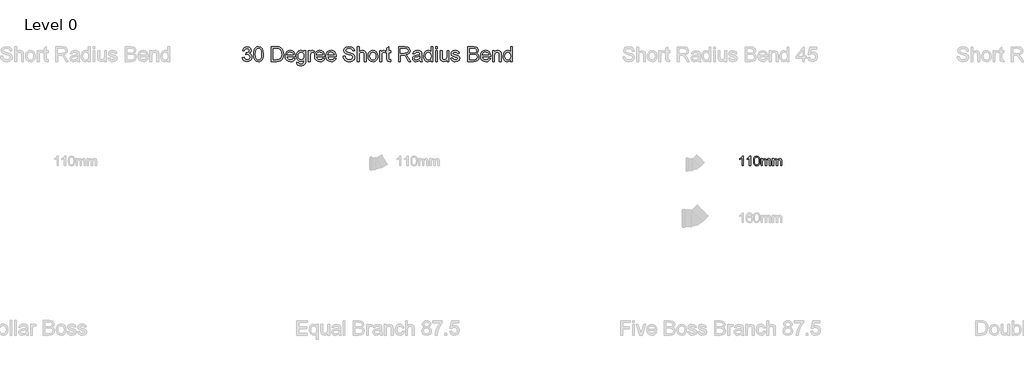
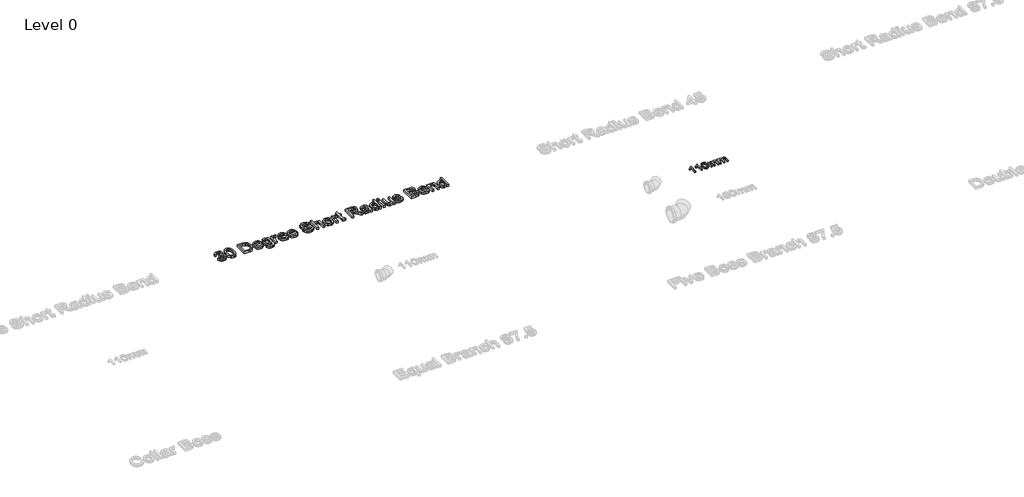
# One storey, part 12 of 15: 2 proxies.
"""IFC4 building model written with IfcOpenShell, lengths in millimetres."""

from ifc_helpers import new_model, si_unit, origin, origin_with_axes, place, context, project, spatial, polyline, outline, extrude, element, save

model = new_model("IFC4")

# Units and contexts
model_context = context("Model", 3, world=origin())
ifc_project = project(units=[si_unit("LENGTHUNIT", "METRE", prefix="MILLI")], contexts=[model_context])

# Site, building, storey
site = spatial("IfcSite", under=ifc_project)
building = spatial("IfcBuilding", under=site)
storey = spatial("IfcBuildingStorey", under=building, Name="Level 0", Elevation=0.0)

# Proxies
placement = place(None, origin())
element("IfcBuildingElementProxy", 1, Name="100mm Arial", ObjectType="100mm Arial", at=placement, inside=storey, context=model_context, shape_type="SweptSolid", body=[
    extrude(outline(polyline([(-6791.7293188, 8237.7167304), (-6804.0370111, 8237.7167304), (-6804.0370111, 8314.4474996), (-6815.6956649, 8306.1422111), (-6828.6523957, 8299.9282688), (-6828.6523957, 8311.5628842), (-6810.6115303, 8323.0773073), (-6799.6620111, 8336.1782688), (-6791.7293188, 8336.1782688), (-6791.7293188, 8237.7167304)])), origin_with_axes(), (0.0, 0.0, 1.0), 15.0),
    extrude(outline(polyline([(-6716.3447034, 8237.7167304), (-6728.6523957, 8237.7167304), (-6728.6523957, 8314.4474996), (-6740.3110495, 8306.1422111), (-6753.2677803, 8299.9282688), (-6753.2677803, 8311.5628842), (-6735.2269149, 8323.0773073), (-6724.2773957, 8336.1782688), (-6716.3447034, 8336.1782688), (-6716.3447034, 8237.7167304)])), origin_with_axes(), (0.0, 0.0, 1.0), 15.0),
    extrude(outline(polyline([(-6687.1139341, 8286.1542304), (-6683.4961457, 8314.4835573), (-6672.7509534, 8330.8176919), (-6654.8062418, 8336.1782688), (-6640.4312418, 8333.0051919), (-6630.5033572, 8323.8585573), (-6624.7341264, 8309.2912496), (-6622.4985495, 8286.1542304), (-6626.0802803, 8257.9450958), (-6636.7894149, 8241.5749035), (-6654.8062418, 8236.1782688), (-6667.5947034, 8238.5220188), (-6677.3062418, 8245.5532688), (-6684.6620111, 8262.2059131), (-6687.1139341, 8286.1542304)]), holes=[polyline([(-6674.8062418, 8286.1782688), (-6673.3639341, 8266.8182929), (-6669.0370111, 8255.613365), (-6662.5947034, 8250.2678121), (-6654.8062418, 8248.4859611), (-6647.0177803, 8250.2738217), (-6640.5754726, 8255.6374035), (-6636.2485495, 8266.848341), (-6634.8062418, 8286.1782688), (-6636.2004726, 8305.1025477), (-6640.3831649, 8316.394615), (-6646.8134534, 8322.0015861), (-6654.9504726, 8323.8705765), (-6662.6547995, 8322.2239419), (-6668.8447034, 8317.2840381), (-6673.3158572, 8305.2888458), (-6674.8062418, 8286.1782688)])]), origin_with_axes(), (0.0, 0.0, 1.0), 15.0),
    extrude(outline(polyline([(-6608.6523957, 8237.7167304), (-6608.6523957, 8310.0244227), (-6596.3447034, 8310.0244227), (-6596.3447034, 8298.1253842), (-6587.8831649, 8307.8729804), (-6575.8398957, 8311.5628842), (-6563.5081649, 8307.800865), (-6556.7293188, 8297.2599996), (-6547.1259534, 8307.9871631), (-6534.9985495, 8311.5628842), (-6525.7467466, 8310.0755044), (-6518.9047995, 8305.613365), (-6514.6770351, 8298.0562736), (-6513.2677803, 8287.2840381), (-6513.2677803, 8237.7167304), (-6525.5754726, 8237.7167304), (-6525.5754726, 8281.9955765), (-6526.7172995, 8292.2720188), (-6530.8519149, 8297.332115), (-6537.8831649, 8299.2551919), (-6549.9865303, 8294.3273073), (-6554.8062418, 8278.5340381), (-6554.8062418, 8237.7167304), (-6567.1139341, 8237.7167304), (-6567.1139341, 8283.3657688), (-6569.9624918, 8295.2888458), (-6579.3014341, 8299.2551919), (-6588.4120111, 8296.6109611), (-6594.4697034, 8288.8705765), (-6596.3447034, 8274.1830765), (-6596.3447034, 8237.7167304), (-6608.6523957, 8237.7167304)])), origin_with_axes(), (0.0, 0.0, 1.0), 15.0),
    extrude(outline(polyline([(-6494.8062418, 8237.7167304), (-6494.8062418, 8310.0244227), (-6482.4985495, 8310.0244227), (-6482.4985495, 8298.1253842), (-6474.0370111, 8307.8729804), (-6461.9937418, 8311.5628842), (-6449.6620111, 8307.800865), (-6442.8831649, 8297.2599996), (-6433.2797995, 8307.9871631), (-6421.1523957, 8311.5628842), (-6411.9005928, 8310.0755044), (-6405.0586457, 8305.613365), (-6400.8308813, 8298.0562736), (-6399.4216264, 8287.2840381), (-6399.4216264, 8237.7167304), (-6411.7293188, 8237.7167304), (-6411.7293188, 8281.9955765), (-6412.8711457, 8292.2720188), (-6417.0057611, 8297.332115), (-6424.0370111, 8299.2551919), (-6436.1403764, 8294.3273073), (-6440.960088, 8278.5340381), (-6440.960088, 8237.7167304), (-6453.2677803, 8237.7167304), (-6453.2677803, 8283.3657688), (-6456.116338, 8295.2888458), (-6465.4552803, 8299.2551919), (-6474.5658572, 8296.6109611), (-6480.6235495, 8288.8705765), (-6482.4985495, 8274.1830765), (-6482.4985495, 8237.7167304), (-6494.8062418, 8237.7167304)])), origin_with_axes(), (0.0, 0.0, 1.0), 15.0),
])
element("IfcBuildingElementProxy", 2, Name="150mm Arial", ObjectType="150mm Arial", at=placement, inside=storey, context=model_context, shape_type="SweptSolid", body=[
    extrude(outline(polyline([(-11911.1255307, 9345.240083), (-11892.2899725, 9347.5945278), (-11888.0731251, 9335.7579246), (-11881.8973062, 9327.7656882), (-11873.4590129, 9323.2131485), (-11862.4547427, 9321.6956353), (-11849.5420847, 9323.7833656), (-11839.5724826, 9330.0465566), (-11833.198927, 9339.3907593), (-11831.0744085, 9350.7215247), (-11833.1805329, 9361.4774746), (-11839.4989062, 9370.2008764), (-11849.0638381, 9375.9812222), (-11860.9096383, 9377.9080042), (-11874.116602, 9375.847865), (-11872.0196746, 9394.6834231), (-11869.0030422, 9394.4626939), (-11847.6290983, 9399.8705593), (-11840.5105817, 9406.7315585), (-11838.1377428, 9416.4988255), (-11839.8575912, 9424.6336161), (-11845.0171361, 9431.2324994), (-11852.8898108, 9435.6056966), (-11862.7490483, 9437.063429), (-11872.6266799, 9435.591901), (-11880.7016897, 9431.1773171), (-11886.5969986, 9423.8196772), (-11889.9355277, 9413.5189813), (-11908.7710859, 9415.8734261), (-11903.2252648, 9432.7868008), (-11893.3568303, 9445.4143503), (-11879.8555611, 9453.2778279), (-11863.4112359, 9455.8989871), (-11840.6945227, 9450.7302451), (-11824.8020205, 9436.6035765), (-11819.3021847, 9417.6024714), (-11824.526109, 9400.2384413), (-11839.9771528, 9387.7672416), (-11828.1865349, 9383.0031698), (-11819.4493375, 9374.8913718), (-11814.0414721, 9363.873306), (-11812.2388504, 9350.3904309), (-11815.8440939, 9332.0331194), (-11826.6598246, 9316.6924402), (-11842.9845881, 9306.3181679), (-11863.1169303, 9302.8600771), (-11881.3270891, 9305.8123302), (-11896.1527335, 9314.6690892), (-11906.4626264, 9328.2163437), (-11911.1255307, 9345.240083)])), origin_with_axes(), (0.0, 0.0, 1.0), 25.0),
    extrude(outline(polyline([(-11795.757737, 9379.3427439), (-11794.373581, 9403.4620073), (-11790.221113, 9422.6976371), (-11783.3417196, 9437.343939), (-11773.7767878, 9447.6952187), (-11761.4573395, 9453.848045), (-11746.3143968, 9455.8989871), (-11724.3150535, 9451.0429448), (-11709.1215271, 9437.0450349), (-11700.2923592, 9414.751386), (-11696.8710567, 9379.3427439), (-11698.2414171, 9355.3614364), (-11702.3524984, 9336.1717918), (-11709.190505, 9321.5116943), (-11718.7416413, 9311.1190279), (-11731.0886808, 9304.9248148), (-11746.3143968, 9302.8600771), (-11765.885719, 9306.4469266), (-11780.7481516, 9317.207475), (-11792.0053406, 9342.6925002), (-11795.757737, 9379.3427439)]), holes=[polyline([(-11776.9221788, 9379.3795321), (-11774.7148869, 9349.751236), (-11768.0930109, 9332.6033365), (-11758.2337735, 9324.4225606), (-11746.3143968, 9321.6956353), (-11734.3950202, 9324.4317576), (-11724.5357827, 9332.6401247), (-11717.9139068, 9349.7972212), (-11715.7066148, 9379.3795321), (-11717.8403304, 9408.3410422), (-11724.2414771, 9425.6222989), (-11734.0823205, 9434.2031465), (-11746.535126, 9437.063429), (-11758.325744, 9434.5434373), (-11767.7987053, 9426.9834623), (-11774.6413105, 9408.6261508), (-11776.9221788, 9379.3795321)])]), origin_with_axes(), (0.0, 0.0, 1.0), 25.0),
    extrude(outline(polyline([(-11614.4654898, 9305.2145219), (-11614.4654898, 9455.8989871), (-11562.4837638, 9455.8989871), (-11535.59159, 9453.7284834), (-11513.4450939, 9442.9495409), (-11503.0248364, 9431.4716227), (-11495.6028171, 9417.1978012), (-11491.160642, 9400.4039882), (-11489.679917, 9381.3660949), (-11493.6898307, 9350.960648), (-11503.9905266, 9329.016487), (-11517.7493132, 9315.3496709), (-11535.7571369, 9307.7896959), (-11559.9821663, 9305.2145219), (-11614.4654898, 9305.2145219)]), holes=[polyline([(-11595.6299316, 9324.0500801), (-11562.2998228, 9324.0500801), (-11538.0563994, 9326.7724068), (-11524.0768835, 9334.4611405), (-11512.6173594, 9353.16794), (-11508.5154751, 9381.6604005), (-11510.5250305, 9402.1882158), (-11516.5536967, 9417.344954), (-11525.4610396, 9427.7560145), (-11536.1066248, 9434.0467966), (-11562.8148576, 9437.063429), (-11595.6299316, 9437.063429), (-11595.6299316, 9324.0500801)])]), origin_with_axes(), (0.0, 0.0, 1.0), 25.0),
    extrude(outline(polyline([(-11388.6595211, 9338.1767487), (-11370.191845, 9335.8223039), (-11376.8459105, 9321.9071674), (-11387.4639046, 9311.505304), (-11401.8067039, 9305.0213839), (-11419.6351851, 9302.8600771), (-11441.735696, 9306.5894809), (-11458.7410412, 9317.7776921), (-11469.584363, 9335.6981437), (-11473.1988036, 9359.624269), (-11469.5475748, 9384.3551361), (-11458.5938884, 9402.8504034), (-11441.8184694, 9414.383504), (-11420.7020429, 9418.2278708), (-11400.2432054, 9414.392701), (-11383.8954493, 9402.8871916), (-11373.1762876, 9384.4287125), (-11369.6032338, 9359.7346336), (-11369.7135984, 9354.6578621), (-11454.3632455, 9354.6578621), (-11451.1028913, 9340.5587846), (-11443.5291207, 9330.1937094), (-11432.5984269, 9323.8201538), (-11419.2673031, 9321.6956353), (-11400.799627, 9325.6319727), (-11388.6595211, 9338.1767487)]), holes=[polyline([(-11454.3632455, 9373.4934202), (-11388.4387919, 9373.4934202), (-11390.9863747, 9383.4446282), (-11395.9803728, 9390.5631448), (-11406.9616504, 9397.1850207), (-11420.7756193, 9399.3923127), (-11433.4721467, 9397.6310776), (-11443.9705791, 9392.3473725), (-11451.2684382, 9384.1114143), (-11454.3632455, 9373.4934202)])]), origin_with_axes(), (0.0, 0.0, 1.0), 25.0),
    extrude(outline(polyline([(-11355.4765652, 9295.7967428), (-11336.641007, 9293.4422981), (-11330.5341659, 9283.5094842), (-11312.2504307, 9279.3156295), (-11292.9734142, 9284.0613072), (-11283.7763643, 9297.3786354), (-11282.4887773, 9319.3411905), (-11295.7509232, 9308.7461891), (-11311.9193369, 9305.2145219), (-11331.3389077, 9309.3256032), (-11345.8196628, 9321.6588471), (-11354.8281731, 9339.7402472), (-11357.8310099, 9361.095797), (-11352.4415387, 9390.2872333), (-11345.8472539, 9402.1376321), (-11336.8433421, 9410.9438073), (-11325.7379044, 9416.406855), (-11312.8390419, 9418.2278708), (-11296.0360318, 9414.1075925), (-11282.4887773, 9401.7467575), (-11282.4887773, 9415.8734261), (-11263.6532192, 9415.8734261), (-11263.6532192, 9320.3344719), (-11264.9408061, 9298.2753478), (-11268.8035671, 9283.7486075), (-11275.4576327, 9274.1146978), (-11285.1191336, 9266.7340652), (-11297.5765376, 9262.0435698), (-11312.6183127, 9260.4800713), (-11330.1432913, 9262.6827648), (-11343.9434646, 9269.2908451), (-11352.7956251, 9280.3227064), (-11355.4765652, 9295.7967428)]), holes=[polyline([(-11338.9954518, 9362.383384), (-11336.9858964, 9345.1067258), (-11330.9572302, 9333.2287359), (-11321.8935375, 9326.344744), (-11310.7789027, 9324.0500801), (-11299.7470414, 9326.3309484), (-11290.6373635, 9333.1735536), (-11284.5259239, 9344.8997921), (-11282.4887773, 9361.831561), (-11284.5857047, 9378.160923), (-11290.8764868, 9389.9193513), (-11300.1195219, 9397.0240723), (-11311.0732083, 9399.3923127), (-11321.8291582, 9397.0608605), (-11330.8468656, 9390.0665041), (-11336.9583052, 9378.4828198), (-11338.9954518, 9362.383384)])]), origin_with_axes(), (0.0, 0.0, 1.0), 25.0),
    extrude(outline(polyline([(-11235.3998819, 9305.2145219), (-11235.3998819, 9415.8734261), (-11218.9187685, 9415.8734261), (-11218.9187685, 9399.5026773), (-11207.2201211, 9414.5858391), (-11195.4478973, 9418.2278708), (-11176.5387627, 9412.4153353), (-11182.8295448, 9395.5295517), (-11196.0732966, 9399.3923127), (-11206.7234804, 9395.6767045), (-11213.5109032, 9385.3760087), (-11216.5643238, 9363.3766654), (-11216.5643238, 9305.2145219), (-11235.3998819, 9305.2145219)])), origin_with_axes(), (0.0, 0.0, 1.0), 25.0),
    extrude(outline(polyline([(-11087.2905907, 9338.1767487), (-11068.8229145, 9335.8223039), (-11075.4769801, 9321.9071674), (-11086.0949742, 9311.505304), (-11100.4377735, 9305.0213839), (-11118.2662547, 9302.8600771), (-11140.3667655, 9306.5894809), (-11157.3721108, 9317.7776921), (-11168.2154326, 9335.6981437), (-11171.8298732, 9359.624269), (-11168.1786444, 9384.3551361), (-11157.224958, 9402.8504034), (-11140.449539, 9414.383504), (-11119.3331124, 9418.2278708), (-11098.874275, 9414.392701), (-11082.5265188, 9402.8871916), (-11071.8073572, 9384.4287125), (-11068.2343033, 9359.7346336), (-11068.3446679, 9354.6578621), (-11152.994315, 9354.6578621), (-11149.7339608, 9340.5587846), (-11142.1601903, 9330.1937094), (-11131.2294965, 9323.8201538), (-11117.8983727, 9321.6956353), (-11099.4306965, 9325.6319727), (-11087.2905907, 9338.1767487)]), holes=[polyline([(-11152.994315, 9373.4934202), (-11087.0698615, 9373.4934202), (-11089.6174443, 9383.4446282), (-11094.6114424, 9390.5631448), (-11105.5927199, 9397.1850207), (-11119.4066888, 9399.3923127), (-11132.1032162, 9397.6310776), (-11142.6016486, 9392.3473725), (-11149.8995077, 9384.1114143), (-11152.994315, 9373.4934202)])]), origin_with_axes(), (0.0, 0.0, 1.0), 25.0),
    extrude(outline(polyline([(-10971.922797, 9338.1767487), (-10953.4551208, 9335.8223039), (-10960.1091864, 9321.9071674), (-10970.7271805, 9311.505304), (-10985.0699798, 9305.0213839), (-11002.898461, 9302.8600771), (-11024.9989718, 9306.5894809), (-11042.0043171, 9317.7776921), (-11052.8476389, 9335.6981437), (-11056.4620795, 9359.624269), (-11052.8108507, 9384.3551361), (-11041.8571643, 9402.8504034), (-11025.0817453, 9414.383504), (-11003.9653188, 9418.2278708), (-10983.5064813, 9414.392701), (-10967.1587251, 9402.8871916), (-10956.4395635, 9384.4287125), (-10952.8665096, 9359.7346336), (-10952.9768742, 9354.6578621), (-11037.6265213, 9354.6578621), (-11034.3661671, 9340.5587846), (-11026.7923966, 9330.1937094), (-11015.8617028, 9323.8201538), (-11002.530579, 9321.6956353), (-10984.0629028, 9325.6319727), (-10971.922797, 9338.1767487)]), holes=[polyline([(-11037.6265213, 9373.4934202), (-10971.7020678, 9373.4934202), (-10974.2496506, 9383.4446282), (-10979.2436487, 9390.5631448), (-10990.2249262, 9397.1850207), (-11004.0388952, 9399.3923127), (-11016.7354225, 9397.6310776), (-11027.233855, 9392.3473725), (-11034.531714, 9384.1114143), (-11037.6265213, 9373.4934202)])]), origin_with_axes(), (0.0, 0.0, 1.0), 25.0),
    extrude(outline(polyline([(-10879.8787218, 9357.0123068), (-10861.0431636, 9357.0123068), (-10854.9731107, 9338.1583546), (-10840.1474663, 9326.2389779), (-10817.5595118, 9321.6956353), (-10797.8778251, 9325.135332), (-10785.1675021, 9334.5898992), (-10780.9920415, 9347.2266458), (-10784.1190384, 9358.9804755), (-10796.9213319, 9367.5337319), (-10824.3469346, 9374.7258249), (-10853.8694647, 9384.0148453), (-10869.8907256, 9398.0311493), (-10875.1698323, 9416.7563429), (-10873.5373559, 9427.7882042), (-10868.6399268, 9438.0751045), (-10860.6063038, 9446.7939078), (-10849.5652454, 9453.1214781), (-10821.643002, 9458.2534319), (-10791.8445603, 9452.8823548), (-10780.4218244, 9446.2512818), (-10771.9789326, 9437.1002172), (-10766.6354466, 9425.999378), (-10764.5109281, 9413.5189813), (-10783.3464863, 9413.5189813), (-10786.804577, 9424.7577763), (-10794.0150641, 9432.8695742), (-10805.2814502, 9437.7807989), (-10820.907238, 9439.4178738), (-10836.9009077, 9437.799193), (-10847.8729882, 9432.9431506), (-10854.2189526, 9425.7970429), (-10856.3342741, 9417.3081658), (-10854.835155, 9410.0700876), (-10850.3377976, 9404.248355), (-10819.5828628, 9393.72693), (-10786.252754, 9384.2723627), (-10775.5151983, 9377.4389546), (-10768.0242012, 9369.0052599), (-10763.6234128, 9359.063249), (-10762.1564833, 9347.7048924), (-10763.844142, 9336.0936169), (-10768.9071179, 9325.1721202), (-10777.1384776, 9315.7727352), (-10788.3312873, 9308.727795), (-10801.7911698, 9304.3270066), (-10816.8237478, 9302.8600771), (-10835.2776284, 9304.4419697), (-10850.4665563, 9309.1876475), (-10862.5652754, 9317.1155045), (-10871.7485297, 9328.2439348), (-10877.6438387, 9341.8003863), (-10879.8787218, 9357.0123068)])), origin_with_axes(), (0.0, 0.0, 1.0), 25.0),
    extrude(outline(polyline([(-10736.2575909, 9305.2145219), (-10736.2575909, 9455.8989871), (-10717.4220327, 9455.8989871), (-10717.4220327, 9400.4959587), (-10702.7343441, 9413.7948928), (-10684.6437469, 9418.2278708), (-10663.4905322, 9413.3902226), (-10650.6514506, 9400.0177121), (-10646.7886896, 9375.2592538), (-10646.7886896, 9305.2145219), (-10665.6242478, 9305.2145219), (-10665.6242478, 9373.3094792), (-10667.1233669, 9385.1000972), (-10671.6207243, 9393.175107), (-10678.8679996, 9397.8380113), (-10688.6168725, 9399.3923127), (-10704.0495222, 9395.1984579), (-10714.3502181, 9383.8309043), (-10717.4220327, 9364.0020647), (-10717.4220327, 9305.2145219), (-10736.2575909, 9305.2145219)])), origin_with_axes(), (0.0, 0.0, 1.0), 25.0),
    extrude(outline(polyline([(-10625.5986867, 9360.543974), (-10621.5243936, 9387.2246157), (-10609.3015143, 9405.9774004), (-10594.1999584, 9415.1652532), (-10576.1185584, 9418.2278708), (-10556.3311056, 9414.4984671), (-10540.5259753, 9403.3102559), (-10530.1654986, 9385.5461541), (-10526.7120064, 9362.0890784), (-10528.2387167, 9343.0603822), (-10532.8188475, 9328.5750286), (-10540.3190417, 9317.7271083), (-10550.605942, 9309.6107118), (-10562.8242228, 9304.5477358), (-10576.1185584, 9302.8600771), (-10596.1451345, 9306.5756853), (-10611.9318706, 9317.7225098), (-10622.1819827, 9335.8590921), (-10625.5986867, 9360.543974)]), holes=[polyline([(-10606.7631286, 9360.5807622), (-10604.5834277, 9343.5340302), (-10598.0443253, 9331.3893259), (-10588.2034819, 9324.1190579), (-10576.1185584, 9321.6956353), (-10564.0888171, 9324.1328535), (-10554.2663679, 9331.4445082), (-10547.7272654, 9343.7501609), (-10545.5475646, 9361.1693734), (-10547.741061, 9377.7194646), (-10554.3215502, 9389.6986221), (-10564.157795, 9396.96889), (-10576.1185584, 9399.3923127), (-10588.2034819, 9396.9780871), (-10598.0443253, 9389.7354103), (-10604.5834277, 9377.6182971), (-10606.7631286, 9360.5807622)])]), origin_with_axes(), (0.0, 0.0, 1.0), 25.0),
    extrude(outline(polyline([(-10505.5220035, 9305.2145219), (-10505.5220035, 9415.8734261), (-10489.0408901, 9415.8734261), (-10489.0408901, 9399.5026773), (-10477.3422427, 9414.5858391), (-10465.5700188, 9418.2278708), (-10446.6608843, 9412.4153353), (-10452.9516664, 9395.5295517), (-10466.1954182, 9399.3923127), (-10476.845602, 9395.6767045), (-10483.6330248, 9385.3760087), (-10486.6864453, 9363.3766654), (-10486.6864453, 9305.2145219), (-10505.5220035, 9305.2145219)])), origin_with_axes(), (0.0, 0.0, 1.0), 25.0),
    extrude(outline(polyline([(-10394.8630993, 9320.9230831), (-10392.5086546, 9304.6626989), (-10406.598535, 9302.8600771), (-10422.3806726, 9305.9870741), (-10430.2533473, 9314.1908426), (-10432.5342157, 9335.5647865), (-10432.5342157, 9397.0378679), (-10446.6608843, 9397.0378679), (-10446.6608843, 9415.8734261), (-10432.5342157, 9415.8734261), (-10432.5342157, 9442.7655999), (-10413.6986575, 9453.838848), (-10413.6986575, 9415.8734261), (-10394.8630993, 9415.8734261), (-10394.8630993, 9397.0378679), (-10413.6986575, 9397.0378679), (-10413.6986575, 9336.1166095), (-10412.7053761, 9326.4045248), (-10409.4864087, 9322.9648282), (-10403.0668678, 9321.6956353), (-10394.8630993, 9320.9230831)])), origin_with_axes(), (0.0, 0.0, 1.0), 25.0),
    extrude(outline(polyline([(-10314.8119772, 9305.2145219), (-10314.8119772, 9455.8989871), (-10249.880805, 9455.8989871), (-10219.7328755, 9451.8338911), (-10210.4530522, 9446.2052966), (-10203.2517622, 9437.4497051), (-10198.6302446, 9426.5925877), (-10197.0897387, 9414.6594155), (-10199.6419201, 9399.815377), (-10207.2984641, 9387.5097242), (-10220.2892971, 9378.4874183), (-10238.8443452, 9373.4934202), (-10228.1389791, 9365.4368045), (-10212.8718763, 9346.0494234), (-10187.7455361, 9305.2145219), (-10209.6345148, 9305.2145219), (-10229.2426251, 9336.4477033), (-10243.4060819, 9357.1226714), (-10253.3572899, 9366.8899384), (-10262.3152165, 9370.4767879), (-10273.2413117, 9371.1389755), (-10295.976419, 9371.1389755), (-10295.976419, 9305.2145219), (-10314.8119772, 9305.2145219)]), holes=[polyline([(-10295.976419, 9389.9745336), (-10253.8171424, 9389.9745336), (-10232.3144398, 9392.6416781), (-10220.1007575, 9401.1765404), (-10215.9252969, 9413.9604397), (-10217.9164582, 9423.1482925), (-10223.8899421, 9430.5519177), (-10234.1676453, 9435.4355512), (-10249.0714647, 9437.063429), (-10295.976419, 9437.063429), (-10295.976419, 9389.9745336)])]), origin_with_axes(), (0.0, 0.0, 1.0), 25.0),
    extrude(outline(polyline([(-10095.8486137, 9319.3411905), (-10114.1139547, 9306.5756853), (-10134.2922822, 9302.8600771), (-10150.033033, 9305.0949603), (-10161.6443085, 9311.7996096), (-10168.8042118, 9321.9807438), (-10171.1908463, 9334.6450815), (-10167.5856027, 9349.5443023), (-10158.1126414, 9360.360033), (-10144.9240718, 9366.5404505), (-10128.6268994, 9369.3731419), (-10095.9589783, 9375.847865), (-10095.8486137, 9380.0417197), (-10097.1453977, 9388.4478233), (-10101.0357498, 9393.9476592), (-10109.736159, 9398.0311493), (-10121.8578707, 9399.3923127), (-10140.9141581, 9395.768675), (-10150.0008434, 9382.9111993), (-10168.8364015, 9385.2656441), (-10160.6878153, 9403.6597438), (-10144.2802783, 9414.4386863), (-10119.4298496, 9418.2278708), (-10096.6027718, 9414.8801447), (-10083.7085078, 9406.4740411), (-10077.9327605, 9393.6901418), (-10077.0130555, 9377.2090284), (-10077.0130555, 9353.7749453), (-10076.0565623, 9321.0518418), (-10072.304166, 9305.2145219), (-10091.1397241, 9305.2145219), (-10095.8486137, 9319.3411905)]), holes=[polyline([(-10095.8486137, 9357.0123068), (-10126.2356665, 9351.2365595), (-10142.4408684, 9348.183139), (-10149.7801142, 9343.216732), (-10152.3552881, 9335.9694567), (-10146.7450877, 9325.7791254), (-10130.2823684, 9321.6956353), (-10111.2260811, 9326.2021897), (-10098.9388224, 9337.1098909), (-10095.9589783, 9351.6780179), (-10095.8486137, 9357.0123068)])]), origin_with_axes(), (0.0, 0.0, 1.0), 25.0),
    extrude(outline(polyline([(-9982.8352648, 9305.2145219), (-9982.8352648, 9322.9832223), (-9995.2972673, 9307.8908634), (-10012.5233418, 9302.8600771), (-10024.7002358, 9304.681093), (-10035.8470603, 9310.1441407), (-10045.2832334, 9318.8675425), (-10052.3281736, 9330.4696209), (-10056.7151664, 9344.4813264), (-10058.1774974, 9360.4336094), (-10052.7880261, 9390.415992), (-10046.0557856, 9402.3077775), (-10036.6380065, 9411.0541719), (-10025.2474603, 9416.4344461), (-10012.5969182, 9418.2278708), (-9995.232888, 9413.095917), (-9982.8352648, 9399.7601947), (-9982.8352648, 9455.8989871), (-9963.9997066, 9455.8989871), (-9963.9997066, 9305.2145219), (-9982.8352648, 9305.2145219)]), holes=[polyline([(-10039.3419392, 9360.5071858), (-10037.2174207, 9343.4696509), (-10030.8438651, 9331.3525377), (-10021.5824359, 9324.1098609), (-10010.7942964, 9321.6956353), (-10000.0107554, 9323.9994963), (-9990.9838509, 9330.9110793), (-9984.8724113, 9342.559143), (-9982.8352648, 9359.072446), (-9984.9091995, 9377.1262549), (-9991.1310037, 9389.6434398), (-10000.3878344, 9396.9550945), (-10011.5668486, 9399.3923127), (-10022.4653527, 9397.0516635), (-10031.3956881, 9390.0297159), (-10037.3553764, 9377.967785), (-10039.3419392, 9360.5071858)])]), origin_with_axes(), (0.0, 0.0, 1.0), 25.0),
    extrude(outline(polyline([(-9935.7463694, 9437.063429), (-9935.7463694, 9455.8989871), (-9916.9108112, 9455.8989871), (-9916.9108112, 9437.063429), (-9935.7463694, 9437.063429)])), origin_with_axes(), (0.0, 0.0, 1.0), 25.0),
    extrude(outline(polyline([(-9935.7463694, 9305.2145219), (-9935.7463694, 9415.8734261), (-9916.9108112, 9415.8734261), (-9916.9108112, 9305.2145219), (-9935.7463694, 9305.2145219)])), origin_with_axes(), (0.0, 0.0, 1.0), 25.0),
    extrude(outline(polyline([(-9818.0241309, 9305.2145219), (-9818.0241309, 9324.2340211), (-9832.7761989, 9308.2035631), (-9852.0164273, 9302.8600771), (-9869.7299453, 9306.6124735), (-9881.9436276, 9316.0302526), (-9887.553828, 9329.8994038), (-9888.657474, 9347.4105868), (-9888.657474, 9415.8734261), (-9869.8219158, 9415.8734261), (-9869.8219158, 9356.2765428), (-9868.6814816, 9337.0731027), (-9861.2318712, 9325.7975195), (-9847.1971731, 9321.6956353), (-9831.4702178, 9325.88949), (-9821.0775515, 9337.312226), (-9818.0241309, 9358.2998938), (-9818.0241309, 9415.8734261), (-9799.1885728, 9415.8734261), (-9799.1885728, 9305.2145219), (-9818.0241309, 9305.2145219)])), origin_with_axes(), (0.0, 0.0, 1.0), 25.0),
    extrude(outline(polyline([(-9780.3530146, 9338.1767487), (-9761.5174565, 9340.5311935), (-9758.5468093, 9332.4745778), (-9752.7986532, 9326.5516776), (-9732.8226608, 9321.6956353), (-9713.6192207, 9326.1470074), (-9707.3652268, 9336.5948561), (-9708.9379223, 9341.3957161), (-9713.6560089, 9345.056142), (-9733.04339, 9350.4272191), (-9761.4070919, 9359.6426631), (-9773.786321, 9370.4032115), (-9777.9985698, 9385.5967379), (-9774.6140555, 9399.631436), (-9765.3802174, 9410.3551961), (-9753.4056585, 9415.9286084), (-9737.2004566, 9418.2278708), (-9714.2814083, 9414.5306568), (-9699.7132813, 9404.5242665), (-9693.2385581, 9387.6200888), (-9712.0741163, 9385.2656441), (-9719.1558447, 9395.6583104), (-9735.7289286, 9399.3923127), (-9753.7551464, 9395.8238573), (-9759.1630117, 9387.5097242), (-9756.9189315, 9382.0282825), (-9749.8923854, 9377.871216), (-9733.6687894, 9373.8613022), (-9706.0224575, 9364.9953461), (-9693.1833758, 9354.9521677), (-9688.5296686, 9338.5814189), (-9693.9927162, 9320.5552011), (-9709.7564597, 9307.4769962), (-9733.0801782, 9302.8600771), (-9752.0720862, 9305.0857632), (-9765.9320404, 9311.7628214), (-9775.1842726, 9322.8176754), (-9780.3530146, 9338.1767487)])), origin_with_axes(), (0.0, 0.0, 1.0), 25.0),
    extrude(outline(polyline([(-9606.1241017, 9305.2145219), (-9606.1241017, 9455.8989871), (-9548.6241458, 9455.8989871), (-9520.4627791, 9451.4660091), (-9510.9990148, 9445.8420131), (-9503.8345129, 9437.8359812), (-9497.8196423, 9418.5589646), (-9502.8780197, 9400.9558112), (-9518.1635166, 9387.6200888), (-9507.4903403, 9382.0466766), (-9499.60387, 9373.5669966), (-9494.7340321, 9362.7420689), (-9493.1107528, 9350.1329135), (-9497.5437308, 9329.8810097), (-9508.5250084, 9315.4600355), (-9524.9141513, 9307.80809), (-9549.0656042, 9305.2145219), (-9606.1241017, 9305.2145219)]), holes=[polyline([(-9587.2885435, 9394.6834231), (-9552.891577, 9394.6834231), (-9532.8052201, 9396.3021039), (-9520.7202965, 9403.2734677), (-9516.6552005, 9415.5423323), (-9520.444385, 9427.8295909), (-9531.2969039, 9435.0952603), (-9555.5035392, 9437.063429), (-9587.2885435, 9437.063429), (-9587.2885435, 9394.6834231)]), polyline([(-9587.2885435, 9324.0500801), (-9548.660934, 9324.0500801), (-9534.6814182, 9324.7858441), (-9522.8540121, 9328.8877283), (-9515.0181256, 9337.2570437), (-9511.9463109, 9349.9489725), (-9515.5515545, 9364.5906759), (-9527.2318078, 9373.3278733), (-9550.500344, 9375.847865), (-9587.2885435, 9375.847865), (-9587.2885435, 9324.0500801)])]), origin_with_axes(), (0.0, 0.0, 1.0), 25.0),
    extrude(outline(polyline([(-9392.0903569, 9338.1767487), (-9373.6226807, 9335.8223039), (-9380.2767463, 9321.9071674), (-9390.8947404, 9311.505304), (-9405.2375397, 9305.0213839), (-9423.0660209, 9302.8600771), (-9445.1665317, 9306.5894809), (-9462.171877, 9317.7776921), (-9473.0151988, 9335.6981437), (-9476.6296394, 9359.624269), (-9472.9784106, 9384.3551361), (-9462.0247242, 9402.8504034), (-9445.2493052, 9414.383504), (-9424.1328787, 9418.2278708), (-9403.6740412, 9414.392701), (-9387.3262851, 9402.8871916), (-9376.6071234, 9384.4287125), (-9373.0340695, 9359.7346336), (-9373.1444341, 9354.6578621), (-9457.7940812, 9354.6578621), (-9454.5337271, 9340.5587846), (-9446.9599565, 9330.1937094), (-9436.0292627, 9323.8201538), (-9422.6981389, 9321.6956353), (-9404.2304627, 9325.6319727), (-9392.0903569, 9338.1767487)]), holes=[polyline([(-9457.7940812, 9373.4934202), (-9391.8696277, 9373.4934202), (-9394.4172105, 9383.4446282), (-9399.4112086, 9390.5631448), (-9410.3924862, 9397.1850207), (-9424.2064551, 9399.3923127), (-9436.9029824, 9397.6310776), (-9447.4014149, 9392.3473725), (-9454.6992739, 9384.1114143), (-9457.7940812, 9373.4934202)])]), origin_with_axes(), (0.0, 0.0, 1.0), 25.0),
    extrude(outline(polyline([(-9354.1985114, 9305.2145219), (-9354.1985114, 9415.8734261), (-9335.3629532, 9415.8734261), (-9335.3629532, 9400.4223823), (-9320.9603731, 9413.7764987), (-9301.2970805, 9418.2278708), (-9283.509986, 9414.6410214), (-9271.3698802, 9405.2232423), (-9265.7228916, 9391.3724852), (-9264.7296102, 9373.1623264), (-9264.7296102, 9305.2145219), (-9283.5651683, 9305.2145219), (-9283.5651683, 9370.6239407), (-9285.7356721, 9387.288995), (-9293.4060117, 9396.0997688), (-9306.3370638, 9399.3923127), (-9317.3689251, 9397.5437057), (-9326.7729087, 9391.9978846), (-9333.2154421, 9381.2833215), (-9335.3629532, 9363.9284883), (-9335.3629532, 9305.2145219), (-9354.1985114, 9305.2145219)])), origin_with_axes(), (0.0, 0.0, 1.0), 25.0),
    extrude(outline(polyline([(-9170.5518194, 9305.2145219), (-9170.5518194, 9322.9832223), (-9183.013822, 9307.8908634), (-9200.2398964, 9302.8600771), (-9212.4167905, 9304.681093), (-9223.5636149, 9310.1441407), (-9232.9997881, 9318.8675425), (-9240.0447283, 9330.4696209), (-9244.4317211, 9344.4813264), (-9245.894052, 9360.4336094), (-9240.5045808, 9390.415992), (-9233.7723403, 9402.3077775), (-9224.3545612, 9411.0541719), (-9212.9640149, 9416.4344461), (-9200.3134728, 9418.2278708), (-9182.9494426, 9413.095917), (-9170.5518194, 9399.7601947), (-9170.5518194, 9455.8989871), (-9151.7162612, 9455.8989871), (-9151.7162612, 9305.2145219), (-9170.5518194, 9305.2145219)]), holes=[polyline([(-9227.0584939, 9360.5071858), (-9224.9339753, 9343.4696509), (-9218.5604198, 9331.3525377), (-9209.2989905, 9324.1098609), (-9198.510851, 9321.6956353), (-9187.72731, 9323.9994963), (-9178.7004056, 9330.9110793), (-9172.5889659, 9342.559143), (-9170.5518194, 9359.072446), (-9172.6257541, 9377.1262549), (-9178.8475584, 9389.6434398), (-9188.1043891, 9396.9550945), (-9199.2834032, 9399.3923127), (-9210.1819073, 9397.0516635), (-9219.1122428, 9390.0297159), (-9225.0719311, 9377.967785), (-9227.0584939, 9360.5071858)])]), origin_with_axes(), (0.0, 0.0, 1.0), 25.0),
])

save(model, "model.ifc")
